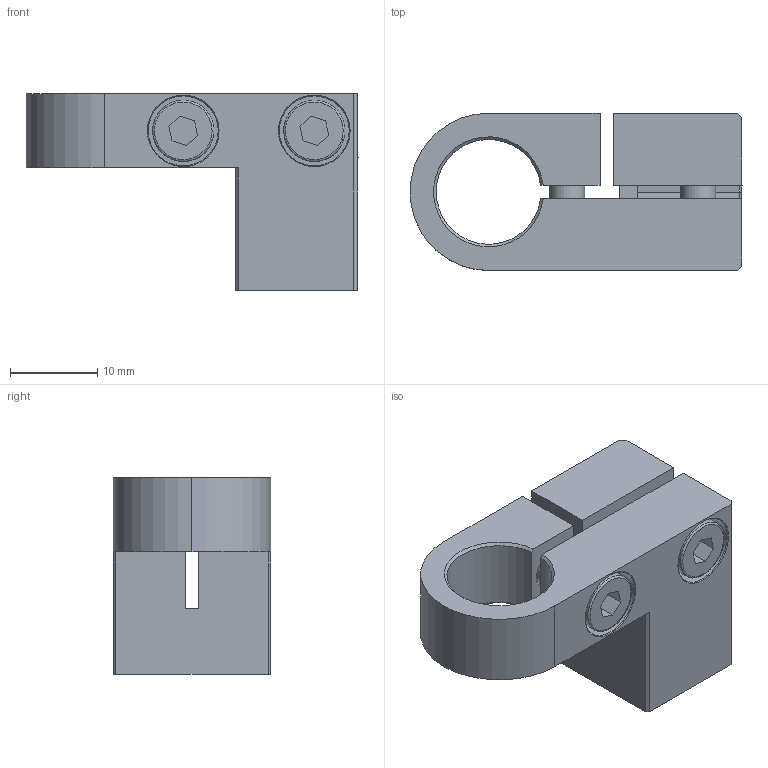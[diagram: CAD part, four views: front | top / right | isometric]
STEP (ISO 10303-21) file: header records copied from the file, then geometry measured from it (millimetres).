
FILE_DESCRIPTION (( 'STEP AP214' ), '1' );
FILE_NAME ('SMBR5-1212T.STEP', '2023-01-03T05:56:05', ( 'Windows User' ), ( 'P R C' ), 'SwSTEP 2.0', 'SolidWorks 2018', '' );
FILE_SCHEMA (( 'AUTOMOTIVE_DESIGN' ));
Length unit declared in the file: millimetre
Products named in the file (1): SMBR5-1212T
Bounding box: 38 x 18 x 22.5 mm (x, y, z)
Volume: 6011.3 mm3; surface area: 5179.4 mm2
Topology: 5 solids, 5 shells, 478 faces, 1376 edges, 910 vertices
Faces by surface type: plane 427, cylinder 34, cone 13, bspline 4
Entity records: 21329 total; most frequent: CARTESIAN_POINT 3031, DIRECTION 2769, ORIENTED_EDGE 2752, EDGE_CURVE 1376, AXIS2_PLACEMENT_3D 932, VERTEX_POINT 910, LINE 905, VECTOR 905
